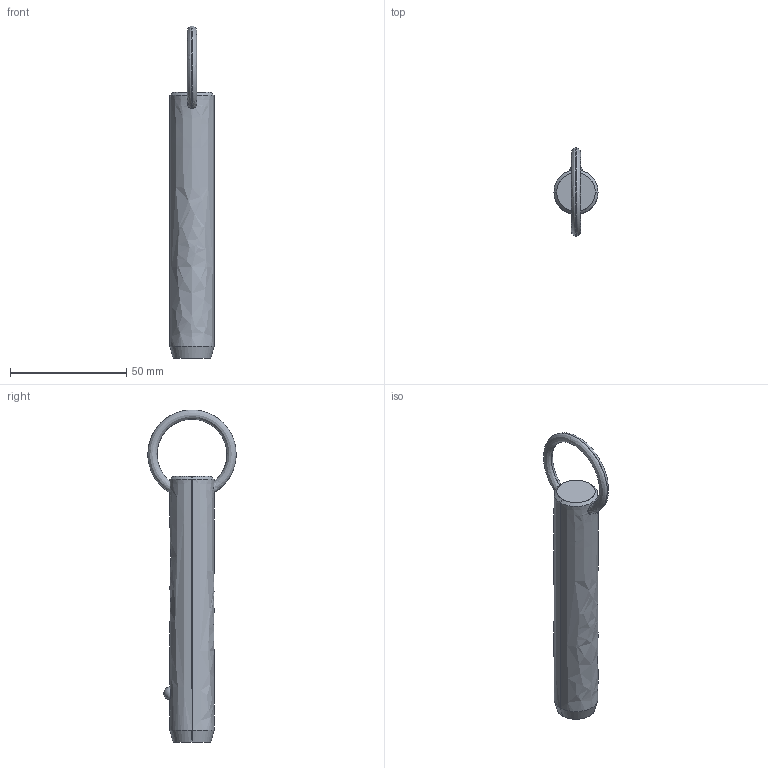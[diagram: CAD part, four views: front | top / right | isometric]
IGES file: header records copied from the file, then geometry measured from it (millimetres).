
Start section: SolidWorks IGES file using analytic representation for surfaces
Global section: file name: C:\Users\liam_\OneDrive\Documents\WORK\Work for WixRoyd\Job Files\J-00019 - Matt Davis CAD Checking\04. CAD Drawings\automotion20190605\P1250.2_v2\P1250.2_v2_20190729_IGES\P1250.075-320.igs; native system: SolidWorks 2017; preprocessor: SolidWorks 2017; author: liam_; date: 190729.235159; units: millimetre
Bounding box: 19 x 38.06 x 143.1 mm (x, y, z)
Surface area: 8367.3 mm2 (no closed solid volume)
Topology: 0 solids, 0 shells, 12 faces, 294 edges, 292 vertices
Faces by surface type: revolution 8, bspline 4
